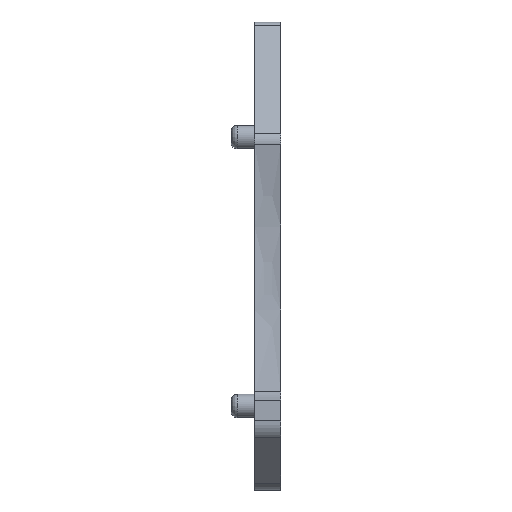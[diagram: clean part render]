
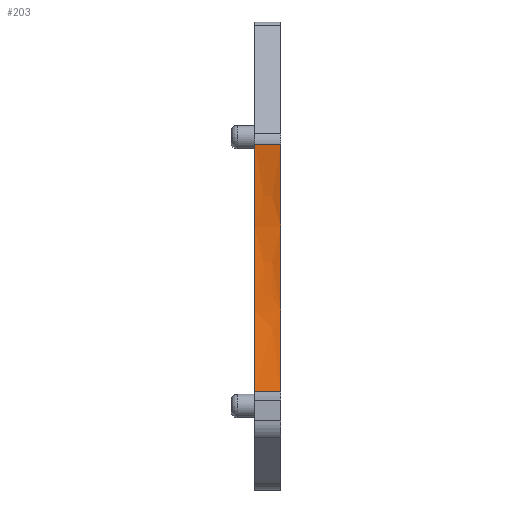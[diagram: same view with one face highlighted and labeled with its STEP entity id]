
A CAD part, left-side view. The second image highlights one B-rep face of the part: STEP entity #203.
In plain terms, the highlighted free-form (B-spline) face has degree [3, 3] with [12, 4] control points.
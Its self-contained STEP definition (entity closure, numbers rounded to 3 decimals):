
#75=CARTESIAN_POINT('',(-31.915,-2.2,8.785));
#76=VERTEX_POINT('',#75);
#77=CARTESIAN_POINT('',(-31.915,0.,8.785));
#78=VERTEX_POINT('',#77);
#79=CARTESIAN_POINT('',(-31.915,-2.2,8.785));
#80=DIRECTION('',(0.,1.,0.));
#81=VECTOR('',#80,2.2);
#82=LINE('',#79,#81);
#83=EDGE_CURVE('',#76,#78,#82,.T.);
#103=CARTESIAN_POINT('',(-31.915,0.,8.785));
#104=CARTESIAN_POINT('',(-31.915,-0.733,8.785));
#105=CARTESIAN_POINT('',(-31.915,-1.467,8.785));
#106=CARTESIAN_POINT('',(-31.915,-2.2,8.785));
#107=CARTESIAN_POINT('',(-31.478,0.,10.579));
#108=CARTESIAN_POINT('',(-31.478,-0.733,10.579));
#109=CARTESIAN_POINT('',(-31.478,-1.467,10.579));
#110=CARTESIAN_POINT('',(-31.478,-2.2,10.579));
#111=CARTESIAN_POINT('',(-31.142,0.,12.392));
#112=CARTESIAN_POINT('',(-31.142,-0.733,12.392));
#113=CARTESIAN_POINT('',(-31.142,-1.467,12.392));
#114=CARTESIAN_POINT('',(-31.142,-2.2,12.392));
#115=CARTESIAN_POINT('',(-30.788,0.,15.14));
#116=CARTESIAN_POINT('',(-30.788,-0.733,15.14));
#117=CARTESIAN_POINT('',(-30.788,-1.467,15.14));
#118=CARTESIAN_POINT('',(-30.788,-2.2,15.14));
#119=CARTESIAN_POINT('',(-30.696,0.,16.062));
#120=CARTESIAN_POINT('',(-30.696,-0.733,16.062));
#121=CARTESIAN_POINT('',(-30.696,-1.467,16.062));
#122=CARTESIAN_POINT('',(-30.696,-2.2,16.062));
#123=CARTESIAN_POINT('',(-30.562,0.,17.905));
#124=CARTESIAN_POINT('',(-30.562,-0.733,17.905));
#125=CARTESIAN_POINT('',(-30.562,-1.467,17.905));
#126=CARTESIAN_POINT('',(-30.562,-2.2,17.905));
#127=CARTESIAN_POINT('',(-30.521,0.,18.827));
#128=CARTESIAN_POINT('',(-30.521,-0.733,18.827));
#129=CARTESIAN_POINT('',(-30.521,-1.467,18.827));
#130=CARTESIAN_POINT('',(-30.521,-2.2,18.827));
#131=CARTESIAN_POINT('',(-30.473,0.,21.593));
#132=CARTESIAN_POINT('',(-30.473,-0.733,21.593));
#133=CARTESIAN_POINT('',(-30.473,-1.467,21.593));
#134=CARTESIAN_POINT('',(-30.473,-2.2,21.593));
#135=CARTESIAN_POINT('',(-30.543,0.,23.439));
#136=CARTESIAN_POINT('',(-30.543,-0.733,23.439));
#137=CARTESIAN_POINT('',(-30.543,-1.467,23.439));
#138=CARTESIAN_POINT('',(-30.543,-2.2,23.439));
#139=CARTESIAN_POINT('',(-30.855,0.,26.754));
#140=CARTESIAN_POINT('',(-30.855,-0.733,26.754));
#141=CARTESIAN_POINT('',(-30.855,-1.467,26.754));
#142=CARTESIAN_POINT('',(-30.855,-2.2,26.754));
#143=CARTESIAN_POINT('',(-31.058,0.,28.215));
#144=CARTESIAN_POINT('',(-31.058,-0.733,28.215));
#145=CARTESIAN_POINT('',(-31.058,-1.467,28.215));
#146=CARTESIAN_POINT('',(-31.058,-2.2,28.215));
#147=CARTESIAN_POINT('',(-31.325,0.,29.664));
#148=CARTESIAN_POINT('',(-31.325,-0.733,29.664));
#149=CARTESIAN_POINT('',(-31.325,-1.467,29.664));
#150=CARTESIAN_POINT('',(-31.325,-2.2,29.664));
#151=B_SPLINE_SURFACE_WITH_KNOTS('',3,3,((#103,#104,#105,#106),(#107,#108,#109,#110),(#111,#112,#113,#114),(#115,#116,#117,#118),(#119,#120,#121,#122),(#123,#124,#125,#126),(#127,#128,#129,#130),(#131,#132,#133,#134),(#135,#136,#137,#138),(#139,#140,#141,#142),(#143,#144,#145,#146),(#147,#148,#149,#150)),.UNSPECIFIED.,.F.,.F.,.U.,(4,2,2,2,2,4),(4,4),(0.,0.25,0.375,0.5,0.75,0.95),(0.,1.),.UNSPECIFIED.);
#152=ORIENTED_EDGE('',*,*,#83,.T.);
#153=CARTESIAN_POINT('',(-31.325,0.,29.664));
#154=VERTEX_POINT('',#153);
#155=CARTESIAN_POINT('',(-31.325,0.,29.664));
#156=CARTESIAN_POINT('',(-31.057,-0.,28.209));
#157=CARTESIAN_POINT('',(-30.854,0.,26.748));
#158=CARTESIAN_POINT('',(-30.716,0.,25.281));
#159=CARTESIAN_POINT('',(-30.544,-0.,23.447));
#160=CARTESIAN_POINT('',(-30.473,0.,21.602));
#161=CARTESIAN_POINT('',(-30.505,0.,19.749));
#162=CARTESIAN_POINT('',(-30.521,0.,18.825));
#163=CARTESIAN_POINT('',(-30.562,0.,17.904));
#164=CARTESIAN_POINT('',(-30.629,0.,16.984));
#165=CARTESIAN_POINT('',(-30.696,0.,16.062));
#166=CARTESIAN_POINT('',(-30.788,0.,15.142));
#167=CARTESIAN_POINT('',(-30.906,0.,14.224));
#168=CARTESIAN_POINT('',(-31.142,0.,12.392));
#169=CARTESIAN_POINT('',(-31.478,0.,10.579));
#170=CARTESIAN_POINT('',(-31.915,0.,8.785));
#171=B_SPLINE_CURVE_WITH_KNOTS('',3,(#155,#156,#157,#158,#159,#160,#161,#162,#163,#164,#165,#166,#167,#168,#169,#170),.UNSPECIFIED.,.F.,.U.,(4,3,3,3,3,4),(0.,0.211,0.474,0.606,0.737,1.),.UNSPECIFIED.);
#172=EDGE_CURVE('',#154,#78,#171,.T.);
#173=ORIENTED_EDGE('E463',*,*,#172,.F.);
#174=CARTESIAN_POINT('',(-31.325,-2.2,29.664));
#175=VERTEX_POINT('',#174);
#176=CARTESIAN_POINT('',(-31.325,0.,29.664));
#177=DIRECTION('',(0.,-1.,0.));
#178=VECTOR('',#177,2.2);
#179=LINE('',#176,#178);
#180=EDGE_CURVE('',#154,#175,#179,.T.);
#181=ORIENTED_EDGE('E208',*,*,#180,.T.);
#182=CARTESIAN_POINT('',(-31.325,-2.2,29.664));
#183=CARTESIAN_POINT('',(-31.057,-2.2,28.212));
#184=CARTESIAN_POINT('',(-30.854,-2.2,26.752));
#185=CARTESIAN_POINT('',(-30.716,-2.2,25.281));
#186=CARTESIAN_POINT('',(-30.544,-2.2,23.441));
#187=CARTESIAN_POINT('',(-30.473,-2.2,21.597));
#188=CARTESIAN_POINT('',(-30.505,-2.2,19.749));
#189=CARTESIAN_POINT('',(-30.521,-2.2,18.825));
#190=CARTESIAN_POINT('',(-30.562,-2.2,17.903));
#191=CARTESIAN_POINT('',(-30.629,-2.2,16.984));
#192=CARTESIAN_POINT('',(-30.696,-2.2,16.061));
#193=CARTESIAN_POINT('',(-30.788,-2.2,15.141));
#194=CARTESIAN_POINT('',(-30.906,-2.2,14.224));
#195=CARTESIAN_POINT('',(-31.141,-2.2,12.398));
#196=CARTESIAN_POINT('',(-31.479,-2.2,10.578));
#197=CARTESIAN_POINT('',(-31.915,-2.2,8.785));
#198=B_SPLINE_CURVE_WITH_KNOTS('',3,(#182,#183,#184,#185,#186,#187,#188,#189,#190,#191,#192,#193,#194,#195,#196,#197),.UNSPECIFIED.,.F.,.U.,(4,3,3,3,3,4),(0.,0.21,0.473,0.605,0.737,1.),.UNSPECIFIED.);
#199=EDGE_CURVE('',#175,#76,#198,.T.);
#200=ORIENTED_EDGE('E492',*,*,#199,.T.);
#201=EDGE_LOOP('',(#152,#173,#181,#200));
#202=FACE_OUTER_BOUND('',#201,.F.);
#203=ADVANCED_FACE('F15',(#202),#151,.F.);
